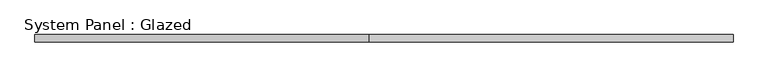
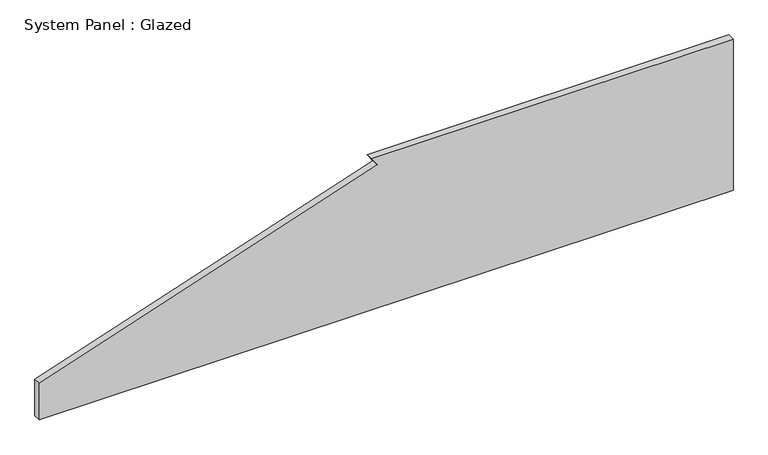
"""IFC4 building model written with IfcOpenShell, lengths in millimetres: plate geometry, System Panel : Glazed."""

from ifc_helpers import new_model, si_unit, frame, origin, place, context, project, spatial, polyline, outline, extrude, source, transform, mapped, element, save


def system_panel_glazed_5992a3c5(model_context):
    return source(origin(), model_context, "Body", "SweptSolid", [
        extrude(outline(polyline([(0.0, -1187.45), (0.0, 1187.45), (546.1, 1187.45), (546.1, -50.8), (517.6086106, -30.7195369), (132.0317895, -1187.45), (0.0, -1187.45)])), frame((0.0, -44.45, 0.0), z_axis=(0.0, 1.0, 0.0), x_axis=(0.0, 0.0, 1.0)), (0.0, 0.0, 1.0), 25.4),
    ])


if __name__ == "__main__":
    model = new_model("IFC4")
    model_context = context("Model", 3, world=origin())
    ifc_project = project(units=[si_unit("LENGTHUNIT", "METRE", prefix="MILLI")], contexts=[model_context])
    site = spatial("IfcSite", under=ifc_project)
    building = spatial("IfcBuilding", under=site)
    placement = place(None, origin())
    system_panel_glazed_shape = system_panel_glazed_5992a3c5(model_context)
    element("IfcPlate", 1, ObjectType="System Panel : Glazed", at=placement, inside=building, context=model_context, shape_type="MappedRepresentation", body=[
        mapped(system_panel_glazed_shape, transform((0.0, 0.0, 0.0), x_axis=(1.0, 0.0, 0.0), y_axis=(0.0, 1.0, 0.0), z_axis=(0.0, 0.0, 1.0))),
    ])
    save(model, "model.ifc")
